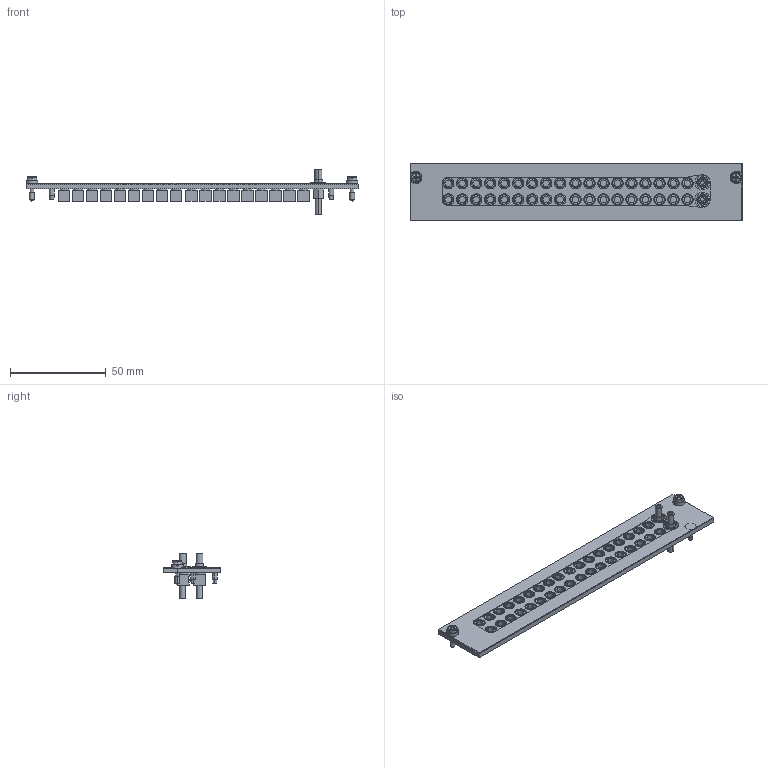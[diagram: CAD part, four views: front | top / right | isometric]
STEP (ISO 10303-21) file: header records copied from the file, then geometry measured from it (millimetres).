
FILE_DESCRIPTION((''),'2;1');
FILE_NAME('CU_SCXI-1193','2009-11-30T',('jjorden'),(''),'PRO/ENGINEER BY PARAMETRIC TECHNOLOGY CORPORATION, 2006080','PRO/ENGINEER BY PARAMETRIC TECHNOLOGY CORPORATION, 2006080','');
FILE_SCHEMA(('CONFIG_CONTROL_DESIGN'));
Length unit declared in the file: inch
Products named in the file (1): CU_SCXI-1193
Bounding box: 173.02 x 30.18 x 23.5 mm (x, y, z)
Volume: 20975.7 mm3; surface area: 23590.5 mm2
Topology: 37 solids, 37 shells, 1335 faces, 3342 edges, 2208 vertices
Faces by surface type: plane 917, cylinder 390, cone 20, torus 4, sphere 4
Entity records: 39976 total; most frequent: CARTESIAN_POINT 7021, DIRECTION 6852, ORIENTED_EDGE 6676, EDGE_CURVE 3338, VECTOR 2462, LINE 2462, VERTEX_POINT 2208, AXIS2_PLACEMENT_3D 2195
